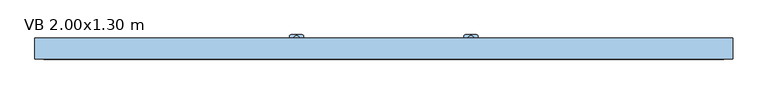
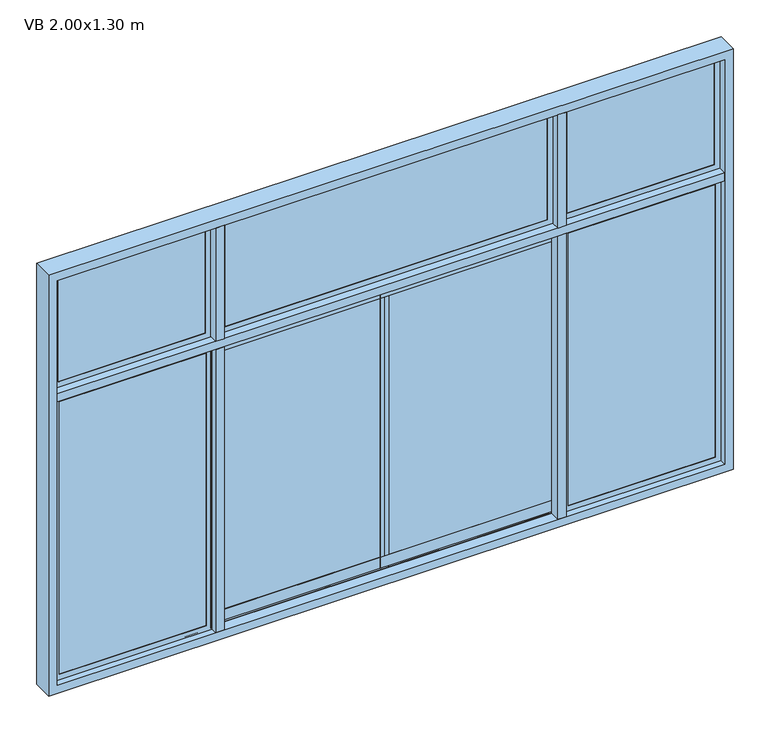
"""IFC4 building model written with IfcOpenShell, lengths in millimetres: window geometry, Ventana baja corrediza 4 cuerpos : VB 2.00x1.30 m."""

from ifc_helpers import new_model, si_unit, point, frame, frame_2d, origin, place, context, project, spatial, polyline, circle_curve, trimmed, segment, composite_curve, outline, extrude, faceted_brep, source, transform, mapped, element, save


def vb_2_00x1_30_m_a2a52466(model_context):
    return source(origin(), model_context, "Body", "SolidModel", [
        extrude(outline(composite_curve([segment(trimmed(circle_curve(frame_2d((250.0, 28.2738075)), 9.1519646), [point((259.1519646, 28.2738075))], [point((240.8480354, 28.2738075))], False, "CARTESIAN"), True, "CONTINUOUS"), segment(trimmed(circle_curve(frame_2d((250.0, 28.2738075)), 9.1519646), [point((240.8480354, 28.2738075))], [point((259.1519646, 28.2738075))], False, "CARTESIAN"), True, "CONTINUOUS")], self_intersect=False)), frame((0.0, 0.0, 966.1518437), z_axis=(0.0, 0.0, 1.0), x_axis=(1.0, 0.0, 0.0)), (0.0, 0.0, 1.0), 3.4852564),
        extrude(outline(composite_curve([segment(trimmed(circle_curve(frame_2d((250.0, 28.2738075)), 4.1308937), [point((254.1308937, 28.2738075))], [point((245.8691063, 28.2738075))], False, "CARTESIAN"), True, "CONTINUOUS"), segment(trimmed(circle_curve(frame_2d((250.0, 28.2738075)), 4.1308937), [point((245.8691063, 28.2738075))], [point((254.1308937, 28.2738075))], False, "CARTESIAN"), True, "CONTINUOUS")], self_intersect=False)), frame((0.0, 0.0, 953.913316), z_axis=(0.0, 0.0, 1.0), x_axis=(1.0, 0.0, 0.0)), (0.0, 0.0, 1.0), 12.2385277),
        extrude(outline(composite_curve([segment(trimmed(circle_curve(frame_2d((250.0, 28.2738075)), 7.026694), [point((257.026694, 28.2738075))], [point((242.973306, 28.2738075))], False, "CARTESIAN"), True, "CONTINUOUS"), segment(trimmed(circle_curve(frame_2d((250.0, 28.2738075)), 7.026694), [point((242.973306, 28.2738075))], [point((257.026694, 28.2738075))], False, "CARTESIAN"), True, "CONTINUOUS")], self_intersect=False)), frame((0.0, 0.0, 932.1776083), z_axis=(0.0, 0.0, 1.0), x_axis=(1.0, 0.0, 0.0)), (0.0, 0.0, 1.0), 21.7357077),
        extrude(outline(composite_curve([segment(trimmed(circle_curve(frame_2d((945.1933283, 268.01572)), 1.98428), [point((945.1933283, 270.0))], [point((947.1776083, 268.01572))], False, "CARTESIAN"), True, "CONTINUOUS"), segment(polyline([(947.1776083, 268.01572), (947.1776083, 231.98428)]), True, "CONTINUOUS"), segment(trimmed(circle_curve(frame_2d((945.1933283, 231.98428)), 1.98428), [point((947.1776083, 231.98428))], [point((945.1933283, 230.0))], False, "CARTESIAN"), True, "CONTINUOUS"), segment(polyline([(945.1933283, 230.0), (932.1776083, 230.0), (932.1776083, 270.0), (945.1933283, 270.0)]), True, "CONTINUOUS")], self_intersect=False), holes=[composite_curve([segment(trimmed(circle_curve(frame_2d((940.5771467, 263.3353779)), 1.6750611), [point((940.5771467, 265.0104391))], [point((940.5771467, 261.6603168))], True, "CARTESIAN"), True, "CONTINUOUS"), segment(trimmed(circle_curve(frame_2d((940.5771467, 263.3353779)), 1.6750611), [point((940.5771467, 261.6603168))], [point((940.5771467, 265.0104391))], True, "CARTESIAN"), True, "CONTINUOUS")], self_intersect=False), composite_curve([segment(trimmed(circle_curve(frame_2d((940.5771467, 236.6646221)), 1.6750611), [point((940.5771467, 234.9895609))], [point((940.5771467, 238.3396832))], True, "CARTESIAN"), True, "CONTINUOUS"), segment(trimmed(circle_curve(frame_2d((940.5771467, 236.6646221)), 1.6750611), [point((940.5771467, 238.3396832))], [point((940.5771467, 234.9895609))], True, "CARTESIAN"), True, "CONTINUOUS")], self_intersect=False)]), frame((0.0, 15.1098039, 0.0), z_axis=(0.0, 1.0, 0.0), x_axis=(0.0, 0.0, 1.0)), (0.0, 0.0, 1.0), 4.012039),
        extrude(outline(composite_curve([segment(polyline([(230.0, 15.1098039), (230.0, 36.2721359)]), True, "CONTINUOUS"), segment(trimmed(circle_curve(frame_2d((233.8376681, 36.2721359)), 3.8376681), [point((230.0, 36.2721359))], [point((233.8376681, 40.1098039))], False, "CARTESIAN"), True, "CONTINUOUS"), segment(polyline([(233.8376681, 40.1098039), (266.1623319, 40.1098039)]), True, "CONTINUOUS"), segment(trimmed(circle_curve(frame_2d((266.1623319, 36.2721359)), 3.8376681), [point((266.1623319, 40.1098039))], [point((270.0, 36.2721359))], False, "CARTESIAN"), True, "CONTINUOUS"), segment(polyline([(270.0, 36.2721359), (270.0, 15.1098039), (230.0, 15.1098039)]), True, "CONTINUOUS")], self_intersect=False)), frame((0.0, 0.0, 928.6104688), z_axis=(0.0, 0.0, 1.0), x_axis=(1.0, 0.0, 0.0)), (0.0, 0.0, 1.0), 3.5671395),
        extrude(outline(composite_curve([segment(trimmed(circle_curve(frame_2d((-250.0, 28.2738075)), 9.1519646), [point((-240.8480354, 28.2738075))], [point((-259.1519646, 28.2738075))], False, "CARTESIAN"), True, "CONTINUOUS"), segment(trimmed(circle_curve(frame_2d((-250.0, 28.2738075)), 9.1519646), [point((-259.1519646, 28.2738075))], [point((-240.8480354, 28.2738075))], False, "CARTESIAN"), True, "CONTINUOUS")], self_intersect=False)), frame((0.0, 0.0, 966.1518437), z_axis=(0.0, 0.0, 1.0), x_axis=(1.0, 0.0, 0.0)), (0.0, 0.0, 1.0), 3.4852564),
        extrude(outline(composite_curve([segment(trimmed(circle_curve(frame_2d((-250.0, 28.2738075)), 4.1308937), [point((-245.8691063, 28.2738075))], [point((-254.1308937, 28.2738075))], False, "CARTESIAN"), True, "CONTINUOUS"), segment(trimmed(circle_curve(frame_2d((-250.0, 28.2738075)), 4.1308937), [point((-254.1308937, 28.2738075))], [point((-245.8691063, 28.2738075))], False, "CARTESIAN"), True, "CONTINUOUS")], self_intersect=False)), frame((0.0, 0.0, 953.913316), z_axis=(0.0, 0.0, 1.0), x_axis=(1.0, 0.0, 0.0)), (0.0, 0.0, 1.0), 12.2385277),
        extrude(outline(composite_curve([segment(trimmed(circle_curve(frame_2d((-250.0, 28.2738075)), 7.026694), [point((-242.973306, 28.2738075))], [point((-257.026694, 28.2738075))], False, "CARTESIAN"), True, "CONTINUOUS"), segment(trimmed(circle_curve(frame_2d((-250.0, 28.2738075)), 7.026694), [point((-257.026694, 28.2738075))], [point((-242.973306, 28.2738075))], False, "CARTESIAN"), True, "CONTINUOUS")], self_intersect=False)), frame((0.0, 0.0, 932.1776083), z_axis=(0.0, 0.0, 1.0), x_axis=(1.0, 0.0, 0.0)), (0.0, 0.0, 1.0), 21.7357077),
        extrude(outline(composite_curve([segment(trimmed(circle_curve(frame_2d((945.1933283, -231.98428)), 1.98428), [point((945.1933283, -230.0))], [point((947.1776083, -231.98428))], False, "CARTESIAN"), True, "CONTINUOUS"), segment(polyline([(947.1776083, -231.98428), (947.1776083, -268.01572)]), True, "CONTINUOUS"), segment(trimmed(circle_curve(frame_2d((945.1933283, -268.01572)), 1.98428), [point((947.1776083, -268.01572))], [point((945.1933283, -270.0))], False, "CARTESIAN"), True, "CONTINUOUS"), segment(polyline([(945.1933283, -270.0), (932.1776083, -270.0), (932.1776083, -230.0), (945.1933283, -230.0)]), True, "CONTINUOUS")], self_intersect=False), holes=[composite_curve([segment(trimmed(circle_curve(frame_2d((940.5771467, -236.6646221)), 1.6750611), [point((940.5771467, -234.9895609))], [point((940.5771467, -238.3396832))], True, "CARTESIAN"), True, "CONTINUOUS"), segment(trimmed(circle_curve(frame_2d((940.5771467, -236.6646221)), 1.6750611), [point((940.5771467, -238.3396832))], [point((940.5771467, -234.9895609))], True, "CARTESIAN"), True, "CONTINUOUS")], self_intersect=False), composite_curve([segment(trimmed(circle_curve(frame_2d((940.5771467, -263.3353779)), 1.6750611), [point((940.5771467, -265.0104391))], [point((940.5771467, -261.6603168))], True, "CARTESIAN"), True, "CONTINUOUS"), segment(trimmed(circle_curve(frame_2d((940.5771467, -263.3353779)), 1.6750611), [point((940.5771467, -261.6603168))], [point((940.5771467, -265.0104391))], True, "CARTESIAN"), True, "CONTINUOUS")], self_intersect=False)]), frame((0.0, 15.1098039, 0.0), z_axis=(0.0, 1.0, 0.0), x_axis=(0.0, 0.0, 1.0)), (0.0, 0.0, 1.0), 4.012039),
        extrude(outline(composite_curve([segment(polyline([(-270.0, 15.1098039), (-270.0, 36.2721359)]), True, "CONTINUOUS"), segment(trimmed(circle_curve(frame_2d((-266.1623319, 36.2721359)), 3.8376681), [point((-270.0, 36.2721359))], [point((-266.1623319, 40.1098039))], False, "CARTESIAN"), True, "CONTINUOUS"), segment(polyline([(-266.1623319, 40.1098039), (-233.8376681, 40.1098039)]), True, "CONTINUOUS"), segment(trimmed(circle_curve(frame_2d((-233.8376681, 36.2721359)), 3.8376681), [point((-233.8376681, 40.1098039))], [point((-230.0, 36.2721359))], False, "CARTESIAN"), True, "CONTINUOUS"), segment(polyline([(-230.0, 36.2721359), (-230.0, 15.1098039), (-270.0, 15.1098039)]), True, "CONTINUOUS")], self_intersect=False)), frame((0.0, 0.0, 928.6104688), z_axis=(0.0, 0.0, 1.0), x_axis=(1.0, 0.0, 0.0)), (0.0, 0.0, 1.0), 3.5671395),
        extrude(outline(polyline([(-487.5, 30.15), (-487.5, -30.15), (-512.5, -30.15), (-512.5, 30.15), (-487.5, 30.15)])), frame((0.0, 0.0, 1825.0), z_axis=(0.0, 0.0, 1.0), x_axis=(1.0, 0.0, 0.0)), (0.0, 0.0, 1.0), 350.0),
        extrude(outline(polyline([(12.7, 13.9001865), (512.5, 13.9001865), (512.5, 4.4001865), (12.7, 4.4001865), (12.7, 13.9001865)])), frame((0.0, 0.0, 948.9759668), z_axis=(0.0, 0.0, 1.0), x_axis=(1.0, 0.0, 0.0)), (0.0, 0.0, 1.0), 827.0480665),
        extrude(outline(polyline([(-516.09375, -1.2096174), (-516.09375, -10.7096174), (-971.40625, -10.7096174), (-971.40625, -1.2096174), (-516.09375, -1.2096174)])), frame((0.0, 0.0, 928.59375), z_axis=(0.0, 0.0, 1.0), x_axis=(1.0, 0.0, 0.0)), (0.0, 0.0, 1.0), 867.8125),
        extrude(outline(polyline([(971.40625, -1.2096174), (971.40625, -10.7096174), (516.09375, -10.7096174), (516.09375, -1.2096174), (971.40625, -1.2096174)])), frame((0.0, 0.0, 928.59375), z_axis=(0.0, 0.0, 1.0), x_axis=(1.0, 0.0, 0.0)), (0.0, 0.0, 1.0), 867.8125),
        extrude(outline(polyline([(-516.09375, 4.75), (-516.09375, -4.75), (-971.40625, -4.75), (-971.40625, 4.75), (-516.09375, 4.75)])), frame((0.0, 0.0, 1828.59375), z_axis=(0.0, 0.0, 1.0), x_axis=(1.0, 0.0, 0.0)), (0.0, 0.0, 1.0), 342.8125),
        extrude(outline(polyline([(971.40625, 4.75), (971.40625, -4.75), (516.09375, -4.75), (516.09375, 4.75), (971.40625, 4.75)])), frame((0.0, 0.0, 1828.59375), z_axis=(0.0, 0.0, 1.0), x_axis=(1.0, 0.0, 0.0)), (0.0, 0.0, 1.0), 342.8125),
        extrude(outline(composite_curve([segment(polyline([(10.2821926, 1800.0), (10.2821926, 1789.1628008)]), True, "CONTINUOUS"), segment(trimmed(circle_curve(frame_2d((9.1502142, 1789.8593269)), 1.3291064), [point((10.2821926, 1789.1628008))], [point((8.0182357, 1789.1628008))], False, "CARTESIAN"), True, "CONTINUOUS"), segment(polyline([(8.0182357, 1789.1628008), (8.0182357, 1797.9830324), (0.0, 1797.9830324), (0.0, 1800.0), (10.2821926, 1800.0)]), True, "CONTINUOUS")], self_intersect=False)), frame((-958.2282521, 0.0, 0.0), z_axis=(1.0, 0.0, 0.0), x_axis=(0.0, 1.0, 0.0)), (0.0, 0.0, 1.0), 1916.4565041),
        extrude(outline(polyline([(12.0251865, 1779.6177832), (12.0251865, 1796.3895312), (15.1098039, 1796.3895312), (15.1098039, 1762.8460353), (13.9001865, 1762.8460353), (13.9001865, 1776.0240332), (4.4001865, 1776.0240332), (4.4001865, 1762.8460353), (3.190569, 1762.8460353), (3.190569, 1796.3895312), (6.2751865, 1796.3895312), (6.2751865, 1779.6177832), (12.0251865, 1779.6177832)])), frame((-512.5, 0.0, 0.0), z_axis=(1.0, 0.0, 0.0), x_axis=(0.0, 1.0, 0.0)), (0.0, 0.0, 1.0), 1025.0),
        extrude(outline(polyline([(6.9867702, 1780.2900719), (6.9867702, 1789.8233667), (9.1501865, 1787.6599504), (11.3136028, 1789.8233667), (11.3136028, 1780.2900719), (9.1501865, 1782.4534882), (6.9867702, 1780.2900719)])), frame((-512.5, 0.0, 0.0), z_axis=(1.0, 0.0, 0.0), x_axis=(0.0, 1.0, 0.0)), (0.0, 0.0, 1.0), 1025.0),
        faceted_brep([(-529.2717479, 0.0, 1783.2282521), (-529.2717479, 0.0, 941.7717479), (-529.2717479, -1.2096174, 941.7717479), (-529.2717479, -1.2096174, 1783.2282521), (-516.09375, -1.2096174, 1796.40625), (-516.09375, -1.2096174, 928.59375), (-516.09375, -10.7096174, 928.59375), (-516.09375, -10.7096174, 1796.40625), (-529.2717479, -10.7096174, 1783.2282521), (-529.2717479, -10.7096174, 941.7717479), (-529.2717479, -11.9192349, 941.7717479), (-529.2717479, -11.9192349, 1783.2282521), (-512.5, -11.9192349, 1800.0), (-512.5, -11.9192349, 925.0), (-512.5, 0.0, 925.0), (-512.5, 0.0, 1800.0), (-958.2282521, 0.0, 941.7717479), (-958.2282521, -1.2096174, 941.7717479), (-971.40625, -1.2096174, 928.59375), (-971.40625, -10.7096174, 928.59375), (-958.2282521, -10.7096174, 941.7717479), (-958.2282521, -11.9192349, 941.7717479), (-975.0, -11.9192349, 925.0), (-975.0, 0.0, 925.0), (-958.2282521, 0.0, 1783.2282521), (-958.2282521, -1.2096174, 1783.2282521), (-971.40625, -1.2096174, 1796.40625), (-971.40625, -10.7096174, 1796.40625), (-958.2282521, -10.7096174, 1783.2282521), (-958.2282521, -11.9192349, 1783.2282521), (-975.0, -11.9192349, 1800.0), (-975.0, 0.0, 1800.0)], [[[0, 1, 2, 3]], [[4, 5, 6, 7]], [[8, 9, 10, 11]], [[12, 13, 14, 15]], [[1, 16, 17, 2]], [[5, 18, 19, 6]], [[9, 20, 21, 10]], [[13, 22, 23, 14]], [[16, 24, 25, 17]], [[18, 26, 27, 19]], [[20, 28, 29, 21]], [[22, 30, 31, 23]], [[15, 14, 23, 31], [1, 0, 24, 16]], [[24, 0, 3, 25]], [[5, 4, 26, 18], [3, 2, 17, 25]], [[26, 4, 7, 27]], [[7, 6, 19, 27], [9, 8, 28, 20]], [[28, 8, 11, 29]], [[13, 12, 30, 22], [11, 10, 21, 29]], [[30, 12, 15, 31]]]),
        faceted_brep([(529.2717479, -1.2096174, 1783.2282521), (529.2717479, -1.2096174, 941.7717479), (529.2717479, 0.0, 941.7717479), (529.2717479, 0.0, 1783.2282521), (516.09375, -10.7096174, 1796.40625), (516.09375, -10.7096174, 928.59375), (516.09375, -1.2096174, 928.59375), (516.09375, -1.2096174, 1796.40625), (529.2717479, -11.9192349, 1783.2282521), (529.2717479, -11.9192349, 941.7717479), (529.2717479, -10.7096174, 941.7717479), (529.2717479, -10.7096174, 1783.2282521), (512.5, 0.0, 1800.0), (512.5, 0.0, 925.0), (512.5, -11.9192349, 925.0), (512.5, -11.9192349, 1800.0), (958.2282521, -1.2096174, 941.7717479), (958.2282521, 0.0, 941.7717479), (971.40625, -10.7096174, 928.59375), (971.40625, -1.2096174, 928.59375), (958.2282521, -11.9192349, 941.7717479), (958.2282521, -10.7096174, 941.7717479), (975.0, 0.0, 925.0), (975.0, -11.9192349, 925.0), (958.2282521, -1.2096174, 1783.2282521), (958.2282521, 0.0, 1783.2282521), (971.40625, -10.7096174, 1796.40625), (971.40625, -1.2096174, 1796.40625), (958.2282521, -11.9192349, 1783.2282521), (958.2282521, -10.7096174, 1783.2282521), (975.0, 0.0, 1800.0), (975.0, -11.9192349, 1800.0)], [[[0, 1, 2, 3]], [[4, 5, 6, 7]], [[8, 9, 10, 11]], [[12, 13, 14, 15]], [[1, 16, 17, 2]], [[5, 18, 19, 6]], [[9, 20, 21, 10]], [[13, 22, 23, 14]], [[16, 24, 25, 17]], [[18, 26, 27, 19]], [[20, 28, 29, 21]], [[22, 30, 31, 23]], [[13, 12, 30, 22], [3, 2, 17, 25]], [[24, 0, 3, 25]], [[7, 6, 19, 27], [1, 0, 24, 16]], [[26, 4, 7, 27]], [[5, 4, 26, 18], [11, 10, 21, 29]], [[28, 8, 11, 29]], [[15, 14, 23, 31], [9, 8, 28, 20]], [[30, 12, 15, 31]]]),
        faceted_brep([(-975.0, 5.9596174, 2175.0), (-975.0, 5.9596174, 1825.0), (-975.0, -5.9596174, 1825.0), (-975.0, -5.9596174, 2175.0), (-958.2282521, 4.75, 2158.2282521), (-958.2282521, 4.75, 1841.7717479), (-958.2282521, 5.9596174, 1841.7717479), (-958.2282521, 5.9596174, 2158.2282521), (-971.40625, -4.75, 2171.40625), (-971.40625, -4.75, 1828.59375), (-971.40625, 4.75, 1828.59375), (-971.40625, 4.75, 2171.40625), (-958.2282521, -5.9596174, 2158.2282521), (-958.2282521, -5.9596174, 1841.7717479), (-958.2282521, -4.75, 1841.7717479), (-958.2282521, -4.75, 2158.2282521), (-512.5, 5.9596174, 1825.0), (-512.5, -5.9596174, 1825.0), (-529.2717479, 4.75, 1841.7717479), (-529.2717479, 5.9596174, 1841.7717479), (-516.09375, -4.75, 1828.59375), (-516.09375, 4.75, 1828.59375), (-529.2717479, -5.9596174, 1841.7717479), (-529.2717479, -4.75, 1841.7717479), (-512.5, 5.9596174, 2175.0), (-512.5, -5.9596174, 2175.0), (-529.2717479, 4.75, 2158.2282521), (-529.2717479, 5.9596174, 2158.2282521), (-516.09375, -4.75, 2171.40625), (-516.09375, 4.75, 2171.40625), (-529.2717479, -5.9596174, 2158.2282521), (-529.2717479, -4.75, 2158.2282521)], [[[0, 1, 2, 3]], [[4, 5, 6, 7]], [[8, 9, 10, 11]], [[12, 13, 14, 15]], [[1, 16, 17, 2]], [[5, 18, 19, 6]], [[9, 20, 21, 10]], [[13, 22, 23, 14]], [[16, 24, 25, 17]], [[18, 26, 27, 19]], [[20, 28, 29, 21]], [[22, 30, 31, 23]], [[24, 0, 3, 25]], [[1, 0, 24, 16], [7, 6, 19, 27]], [[26, 4, 7, 27]], [[11, 10, 21, 29], [5, 4, 26, 18]], [[28, 8, 11, 29]], [[9, 8, 28, 20], [15, 14, 23, 31]], [[30, 12, 15, 31]], [[3, 2, 17, 25], [13, 12, 30, 22]]]),
        faceted_brep([(516.09375, -4.75, 2171.40625), (516.09375, -4.75, 1828.59375), (516.09375, 4.75, 1828.59375), (516.09375, 4.75, 2171.40625), (529.2717479, -5.9596174, 2158.2282521), (529.2717479, -5.9596174, 1841.7717479), (529.2717479, -4.75, 1841.7717479), (529.2717479, -4.75, 2158.2282521), (512.5, 5.9596174, 2175.0), (512.5, 5.9596174, 1825.0), (512.5, -5.9596174, 1825.0), (512.5, -5.9596174, 2175.0), (529.2717479, 4.75, 2158.2282521), (529.2717479, 4.75, 1841.7717479), (529.2717479, 5.9596174, 1841.7717479), (529.2717479, 5.9596174, 2158.2282521), (971.40625, -4.75, 1828.59375), (971.40625, 4.75, 1828.59375), (958.2282521, -5.9596174, 1841.7717479), (958.2282521, -4.75, 1841.7717479), (975.0, 5.9596174, 1825.0), (975.0, -5.9596174, 1825.0), (958.2282521, 4.75, 1841.7717479), (958.2282521, 5.9596174, 1841.7717479), (971.40625, -4.75, 2171.40625), (971.40625, 4.75, 2171.40625), (958.2282521, -5.9596174, 2158.2282521), (958.2282521, -4.75, 2158.2282521), (975.0, 5.9596174, 2175.0), (975.0, -5.9596174, 2175.0), (958.2282521, 4.75, 2158.2282521), (958.2282521, 5.9596174, 2158.2282521)], [[[0, 1, 2, 3]], [[4, 5, 6, 7]], [[8, 9, 10, 11]], [[12, 13, 14, 15]], [[1, 16, 17, 2]], [[5, 18, 19, 6]], [[9, 20, 21, 10]], [[13, 22, 23, 14]], [[16, 24, 25, 17]], [[18, 26, 27, 19]], [[20, 28, 29, 21]], [[22, 30, 31, 23]], [[24, 0, 3, 25]], [[1, 0, 24, 16], [7, 6, 19, 27]], [[26, 4, 7, 27]], [[11, 10, 21, 29], [5, 4, 26, 18]], [[28, 8, 11, 29]], [[9, 8, 28, 20], [15, 14, 23, 31]], [[30, 12, 15, 31]], [[3, 2, 17, 25], [13, 12, 30, 22]]]),
        extrude(outline(polyline([(512.5, 30.15), (512.5, -30.15), (487.5, -30.15), (487.5, 30.15), (512.5, 30.15)])), frame((0.0, 0.0, 1825.0), z_axis=(0.0, 0.0, 1.0), x_axis=(1.0, 0.0, 0.0)), (0.0, 0.0, 1.0), 350.0),
        extrude(outline(polyline([(-487.5, 0.0), (-487.5, -30.15), (-512.5, -30.15), (-512.5, 0.0), (-487.5, 0.0)])), frame((0.0, 0.0, 925.0), z_axis=(0.0, 0.0, 1.0), x_axis=(1.0, 0.0, 0.0)), (0.0, 0.0, 1.0), 875.0),
        extrude(outline(polyline([(512.5, 0.0), (512.5, -30.15), (487.5, -30.15), (487.5, 0.0), (512.5, 0.0)])), frame((0.0, 0.0, 925.0), z_axis=(0.0, 0.0, 1.0), x_axis=(1.0, 0.0, 0.0)), (0.0, 0.0, 1.0), 875.0),
        extrude(outline(polyline([(975.0, -30.15), (-975.0, -30.15), (-975.0, 30.15), (975.0, 30.15), (975.0, -30.15)])), frame((0.0, 0.0, 1800.0), z_axis=(0.0, 0.0, 1.0), x_axis=(1.0, 0.0, 0.0)), (0.0, 0.0, 1.0), 25.0),
        extrude(outline(polyline([(2200.0, -1000.0), (900.0, -1000.0), (900.0, 1000.0), (2200.0, 1000.0), (2200.0, -1000.0)]), holes=[polyline([(925.0, -975.0), (2175.0, -975.0), (2175.0, 975.0), (925.0, 975.0), (925.0, -975.0)])]), frame((0.0, -30.15, 0.0), z_axis=(0.0, 1.0, 0.0), x_axis=(0.0, 0.0, 1.0)), (0.0, 0.0, 1.0), 60.3),
        extrude(outline(polyline([(3.190569, 962.1539647), (4.4001865, 962.1539647), (4.4001865, 948.9759668), (13.9001865, 948.9759668), (13.9001865, 962.1539647), (15.1098039, 962.1539647), (15.1098039, 928.6104688), (12.0251865, 928.6104688), (12.0251865, 945.3822168), (6.2751865, 945.3822168), (6.2751865, 928.6104688), (3.190569, 928.6104688), (3.190569, 962.1539647)])), frame((-512.5, 0.0, 0.0), z_axis=(1.0, 0.0, 0.0), x_axis=(0.0, 1.0, 0.0)), (0.0, 0.0, 1.0), 1025.0),
        extrude(outline(polyline([(9.1501865, 942.5465118), (11.3136028, 944.7099281), (11.3136028, 935.1766333), (9.1501865, 937.3400496), (6.9867702, 935.1766333), (6.9867702, 944.7099281), (9.1501865, 942.5465118)])), frame((-512.5, 0.0, 0.0), z_axis=(1.0, 0.0, 0.0), x_axis=(0.0, 1.0, 0.0)), (0.0, 0.0, 1.0), 1025.0),
        extrude(outline(polyline([(483.90625, 4.75), (483.90625, -4.75), (-483.90625, -4.75), (-483.90625, 4.75), (483.90625, 4.75)])), frame((0.0, 0.0, 1828.59375), z_axis=(0.0, 0.0, 1.0), x_axis=(1.0, 0.0, 0.0)), (0.0, 0.0, 1.0), 342.8125),
        faceted_brep([(-487.5, 5.9596174, 2175.0), (-487.5, 5.9596174, 1825.0), (-487.5, -5.9596174, 1825.0), (-487.5, -5.9596174, 2175.0), (-470.7282521, 4.75, 2158.2282521), (-470.7282521, 4.75, 1841.7717479), (-470.7282521, 5.9596174, 1841.7717479), (-470.7282521, 5.9596174, 2158.2282521), (-483.90625, -4.75, 2171.40625), (-483.90625, -4.75, 1828.59375), (-483.90625, 4.75, 1828.59375), (-483.90625, 4.75, 2171.40625), (-470.7282521, -5.9596174, 2158.2282521), (-470.7282521, -5.9596174, 1841.7717479), (-470.7282521, -4.75, 1841.7717479), (-470.7282521, -4.75, 2158.2282521), (487.5, 5.9596174, 1825.0), (487.5, -5.9596174, 1825.0), (470.7282521, 4.75, 1841.7717479), (470.7282521, 5.9596174, 1841.7717479), (483.90625, -4.75, 1828.59375), (483.90625, 4.75, 1828.59375), (470.7282521, -5.9596174, 1841.7717479), (470.7282521, -4.75, 1841.7717479), (487.5, 5.9596174, 2175.0), (487.5, -5.9596174, 2175.0), (470.7282521, 4.75, 2158.2282521), (470.7282521, 5.9596174, 2158.2282521), (483.90625, -4.75, 2171.40625), (483.90625, 4.75, 2171.40625), (470.7282521, -5.9596174, 2158.2282521), (470.7282521, -4.75, 2158.2282521)], [[[0, 1, 2, 3]], [[4, 5, 6, 7]], [[8, 9, 10, 11]], [[12, 13, 14, 15]], [[1, 16, 17, 2]], [[5, 18, 19, 6]], [[9, 20, 21, 10]], [[13, 22, 23, 14]], [[16, 24, 25, 17]], [[18, 26, 27, 19]], [[20, 28, 29, 21]], [[22, 30, 31, 23]], [[24, 0, 3, 25]], [[1, 0, 24, 16], [7, 6, 19, 27]], [[26, 4, 7, 27]], [[11, 10, 21, 29], [5, 4, 26, 18]], [[28, 8, 11, 29]], [[9, 8, 28, 20], [15, 14, 23, 31]], [[30, 12, 15, 31]], [[3, 2, 17, 25], [13, 12, 30, 22]]]),
        extrude(outline(composite_curve([segment(polyline([(10.2821926, 925.0), (0.0, 925.0), (0.0, 927.0169676), (8.0182357, 927.0169676), (8.0182357, 935.8371992)]), True, "CONTINUOUS"), segment(trimmed(circle_curve(frame_2d((9.1502142, 935.1406731)), 1.3291064), [point((8.0182357, 935.8371992))], [point((10.2821926, 935.8371992))], False, "CARTESIAN"), True, "CONTINUOUS"), segment(polyline([(10.2821926, 935.8371992), (10.2821926, 925.0)]), True, "CONTINUOUS")], self_intersect=False)), frame((-958.2282521, 0.0, 0.0), z_axis=(1.0, 0.0, 0.0), x_axis=(0.0, 1.0, 0.0)), (0.0, 0.0, 1.0), 1916.4565041),
        extrude(outline(polyline([(-12.7, 13.9001865), (-12.7, 4.4001865), (-512.5, 4.4001865), (-512.5, 13.9001865), (-12.7, 13.9001865)])), frame((0.0, 0.0, 948.9759668), z_axis=(0.0, 0.0, 1.0), x_axis=(1.0, 0.0, 0.0)), (0.0, 0.0, 1.0), 827.0480665),
        extrude(outline(polyline([(0.0, 15.3810154), (0.0, 2.8879527), (-12.7, 2.8879527), (-12.7, 15.3810154), (0.0, 15.3810154)])), frame((0.0, 0.0, 928.6104688), z_axis=(0.0, 0.0, 1.0), x_axis=(1.0, 0.0, 0.0)), (0.0, 0.0, 1.0), 867.7790623),
        extrude(outline(polyline([(12.7, 15.3810154), (12.7, 2.8879527), (0.0, 2.8879527), (0.0, 15.3810154), (12.7, 15.3810154)])), frame((0.0, 0.0, 928.6104688), z_axis=(0.0, 0.0, 1.0), x_axis=(1.0, 0.0, 0.0)), (0.0, 0.0, 1.0), 867.7790623),
    ])


if __name__ == "__main__":
    model = new_model("IFC4")
    model_context = context("Model", 3, world=origin())
    ifc_project = project(units=[si_unit("LENGTHUNIT", "METRE", prefix="MILLI")], contexts=[model_context])
    site = spatial("IfcSite", under=ifc_project)
    building = spatial("IfcBuilding", under=site)
    placement = place(None, origin())
    vb_2_00x1_30_m_shape = vb_2_00x1_30_m_a2a52466(model_context)
    element("IfcWindow", 1, ObjectType="Ventana baja corrediza 4 cuerpos : VB 2.00x1.30 m", at=placement, inside=building, context=model_context, shape_type="MappedRepresentation", body=[
        mapped(vb_2_00x1_30_m_shape, transform((0.0, 0.0, 0.0), x_axis=(1.0, 0.0, 0.0), y_axis=(0.0, 1.0, 0.0), z_axis=(0.0, 0.0, 1.0))),
    ])
    save(model, "model.ifc")
